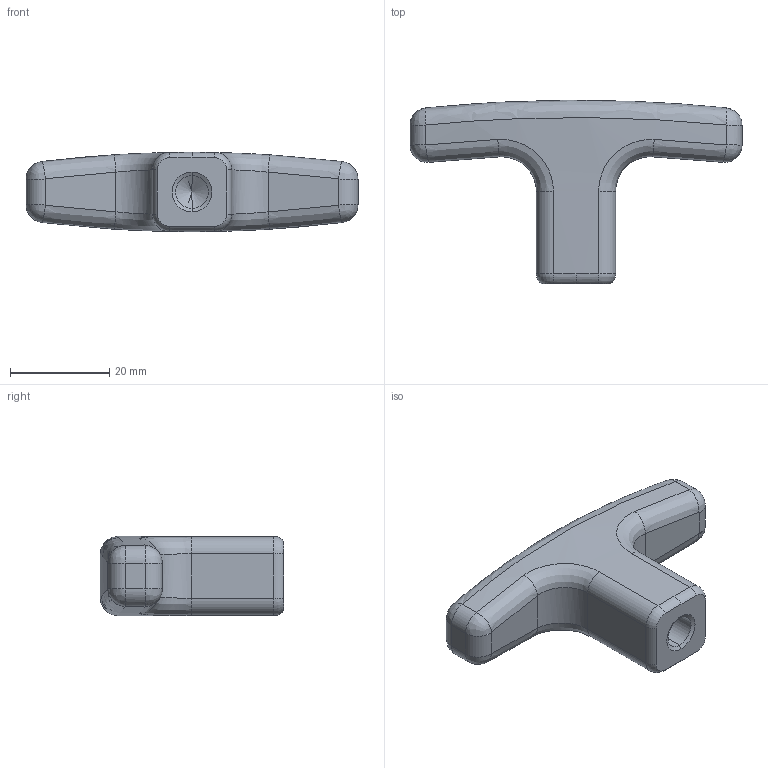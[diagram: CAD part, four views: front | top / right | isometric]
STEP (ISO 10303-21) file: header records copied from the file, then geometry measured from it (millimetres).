
FILE_DESCRIPTION (( 'STEP AP214' ), '1' );
FILE_NAME ('563.2-67-M8-SR.step', '2019-04-16T09:48:27', ( 'user' ), ( '' ), 'SwSTEP 2.0', 'SolidWorks 2019', '' );
FILE_SCHEMA (( 'AUTOMOTIVE_DESIGN' ));
Length unit declared in the file: millimetre
Products named in the file (1): 563.2-67-M8-SR
Bounding box: 67 x 36.99 x 16 mm (x, y, z)
Volume: 15950 mm3; surface area: 5001.1 mm2
Topology: 1 solids, 1 shells, 58 faces, 132 edges, 75 vertices
Faces by surface type: cylinder 24, bspline 18, torus 7, plane 5, cone 4
Entity records: 2682 total; most frequent: CARTESIAN_POINT 1448, ORIENTED_EDGE 260, DIRECTION 229, EDGE_CURVE 130, AXIS2_PLACEMENT_3D 95, VERTEX_POINT 75, EDGE_LOOP 59, ADVANCED_FACE 58
